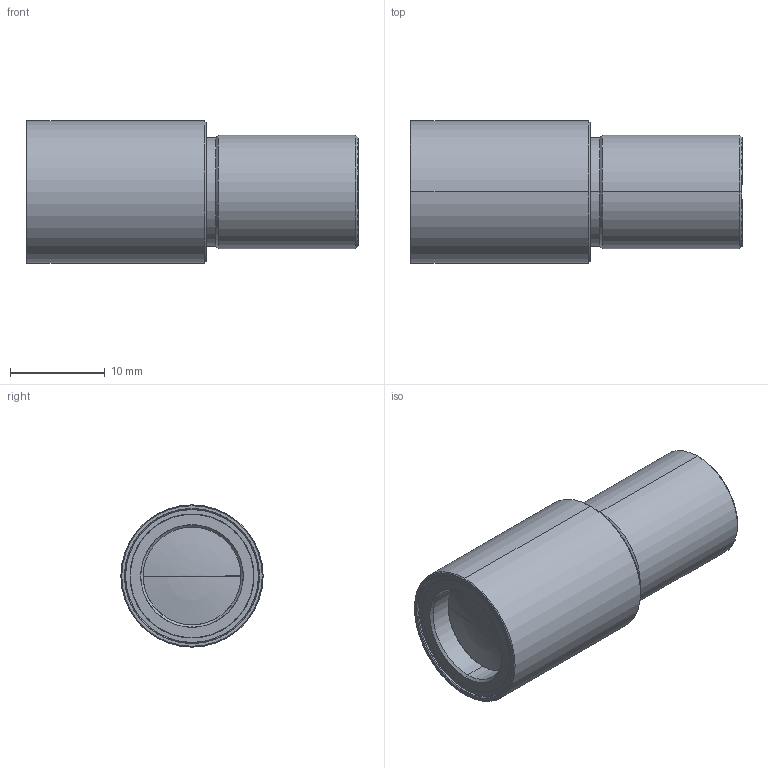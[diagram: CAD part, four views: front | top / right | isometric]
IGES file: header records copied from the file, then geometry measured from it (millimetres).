
Start section: SolidWorks IGES file using analytic representation for surfaces
Bounding box: 35 x 15 x 15 mm (x, y, z)
Surface area: 1968.7 mm2 (no closed solid volume)
Topology: 0 solids, 0 shells, 47 faces, 616 edges, 615 vertices
Faces by surface type: revolution 40, bspline 7
